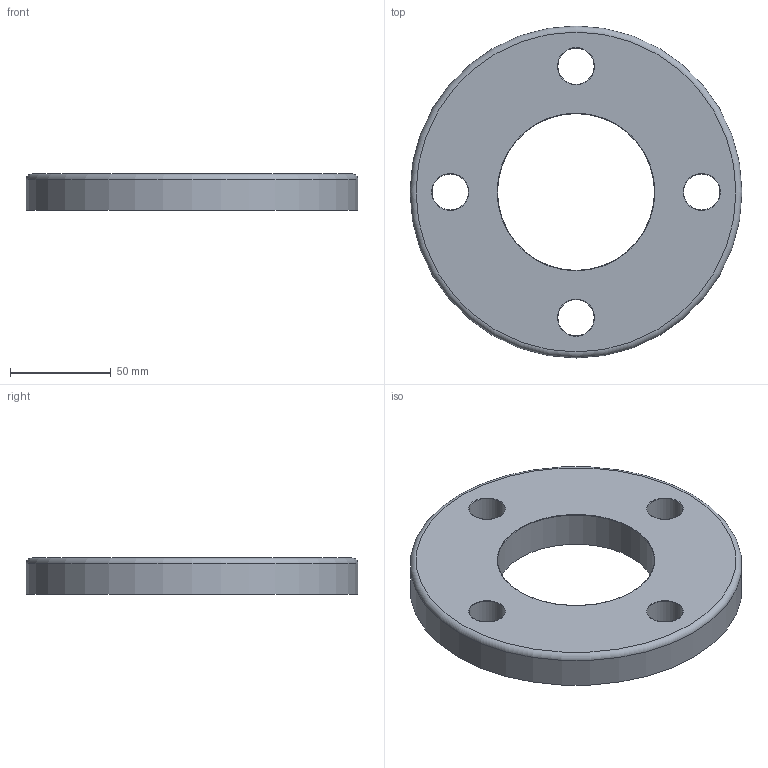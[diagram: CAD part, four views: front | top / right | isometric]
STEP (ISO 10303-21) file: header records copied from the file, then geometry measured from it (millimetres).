
FILE_DESCRIPTION(/* description */ ('PVC-U flangia libera BS 4504 DIN 8063 / PVC-U backing ring drilled to BS 4504 DIN 8063'),/* implementation_level */ '2;1');
FILE_NAME(/* name */ 'C:\Users\POLYPIPE\Desktop\DATASET INVENTOR\LIBRERIA EFFAST\RACCORDI 3DxWEB\RDR\3D_RDRFLD\3D_RDRFLD0630.stp',/* time_stamp */ '2018-01-19T14:22:24+01:00',/* author */ ('POLYPIPE'),/* organization */ ('Polypipe Italia s.r.l.'),/* preprocessor_version */ 'ST-DEVELOPER v16.1',/* originating_system */ 'Autodesk Inventor 2016',/* authorisation */ '');
FILE_SCHEMA (('CONFIG_CONTROL_DESIGN'));
Length unit declared in the file: millimetre
Products named in the file (1): 3D_RDRFLD
Bounding box: 165 x 165 x 18 mm (x, y, z)
Volume: 279555 mm3; surface area: 48273.5 mm2
Topology: 1 solids, 1 shells, 14 faces, 30 edges, 18 vertices
Faces by surface type: torus 6, cylinder 6, plane 2
Full cylindrical faces by diameter (mm): 18 x4, 78 x1, 165 x1
Entity records: 368 total; most frequent: DIRECTION 66, CARTESIAN_POINT 51, EDGE_LOOP 36, ORIENTED_EDGE 36, AXIS2_PLACEMENT_3D 33, FACE_BOUND 22, CIRCLE 18, VERTEX_POINT 18
